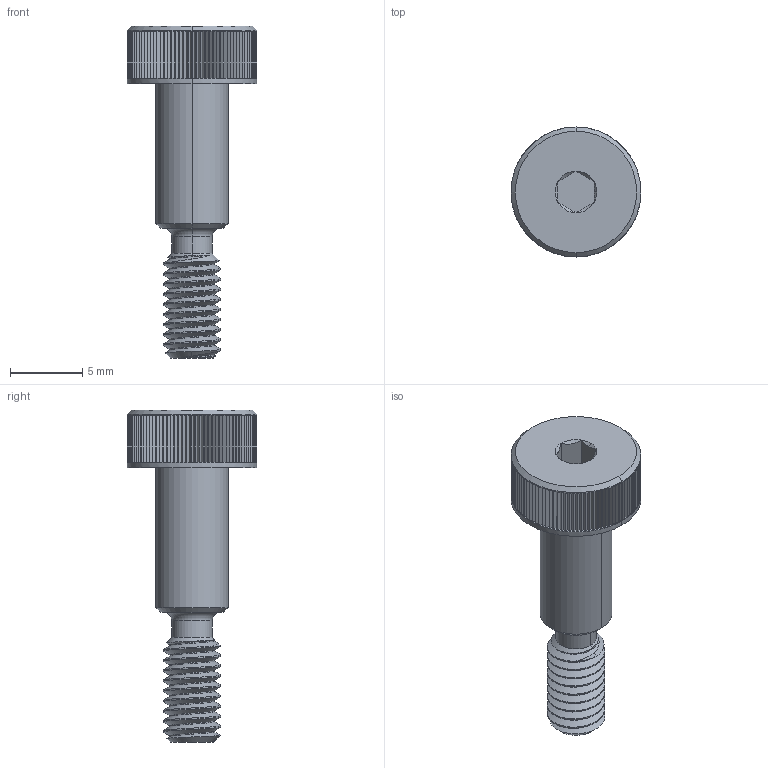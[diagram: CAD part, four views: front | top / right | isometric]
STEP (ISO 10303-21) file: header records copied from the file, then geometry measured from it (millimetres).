
FILE_DESCRIPTION (( 'STEP AP203' ), '1' );
FILE_NAME ('92981A030.STEP', '2018-07-05T17:08:10', ( '' ), ( '' ), 'SwSTEP 2.0', 'SolidWorks 2014', '' );
FILE_SCHEMA (( 'CONFIG_CONTROL_DESIGN' ));
Length unit declared in the file: millimetre
Products named in the file (1): 92981A030
Bounding box: 9 x 9 x 23 mm (x, y, z)
Volume: 509.3 mm3; surface area: 650.5 mm2
Topology: 1 solids, 1 shells, 453 faces, 1030 edges, 680 vertices
Faces by surface type: plane 407, cylinder 24, cone 17, bspline 3, torus 2
Entity records: 14216 total; most frequent: CARTESIAN_POINT 3836, DIRECTION 2104, ORIENTED_EDGE 2060, EDGE_CURVE 1030, LINE 740, VECTOR 740, AXIS2_PLACEMENT_3D 682, VERTEX_POINT 680
